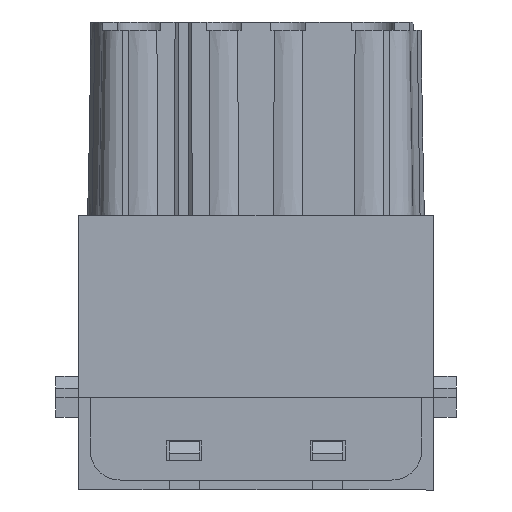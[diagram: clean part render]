
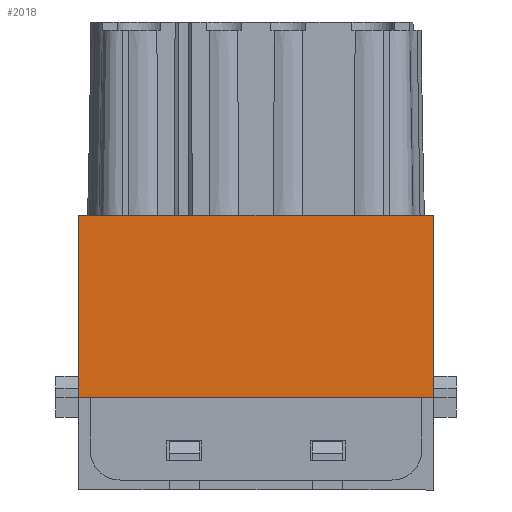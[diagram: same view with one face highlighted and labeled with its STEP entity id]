
A CAD part, left-side view. The second image highlights one B-rep face of the part: STEP entity #2018.
In plain terms, the highlighted planar face has unit normal (-1, 0, 0).
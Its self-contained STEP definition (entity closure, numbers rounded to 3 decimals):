
#2018=ADVANCED_FACE('',(#3239),#2750,.T.);
#2750=PLANE('',#14770);
#3239=FACE_OUTER_BOUND('',#3925,.T.);
#3925=EDGE_LOOP('',(#5235,#5236,#5237,#5238));
#5235=ORIENTED_EDGE('',*,*,#10454,.T.);
#5236=ORIENTED_EDGE('',*,*,#10455,.T.);
#5237=ORIENTED_EDGE('',*,*,#10250,.T.);
#5238=ORIENTED_EDGE('',*,*,#10456,.T.);
#8889=VERTEX_POINT('',#19622);
#8890=VERTEX_POINT('',#19624);
#9081=VERTEX_POINT('',#20122);
#9082=VERTEX_POINT('',#20123);
#10250=EDGE_CURVE('',#8890,#8889,#12106,.T.);
#10454=EDGE_CURVE('',#9081,#9082,#12246,.T.);
#10455=EDGE_CURVE('',#9082,#8890,#12247,.T.);
#10456=EDGE_CURVE('',#8889,#9081,#12248,.T.);
#12106=LINE('',#19623,#13337);
#12246=LINE('',#20121,#13477);
#12247=LINE('',#20124,#13478);
#12248=LINE('',#20125,#13479);
#13337=VECTOR('',#16021,1.);
#13477=VECTOR('',#16255,1.);
#13478=VECTOR('',#16256,1.);
#13479=VECTOR('',#16257,1.);
#14770=AXIS2_PLACEMENT_3D('',#20126,#16258,#16259);
#16021=DIRECTION('',(0.,0.,1.));
#16255=DIRECTION('',(0.,0.,-1.));
#16256=DIRECTION('',(0.,-1.,0.));
#16257=DIRECTION('',(0.,1.,0.));
#16258=DIRECTION('',(-1.,0.,0.));
#16259=DIRECTION('',(0.,1.,0.));
#19622=CARTESIAN_POINT('',(-22.025,-15.15,17.25));
#19623=CARTESIAN_POINT('',(-22.025,-15.15,16.75));
#19624=CARTESIAN_POINT('',(-22.025,-15.15,1.7));
#20121=CARTESIAN_POINT('',(-22.025,15.15,16.85));
#20122=CARTESIAN_POINT('',(-22.025,15.15,17.25));
#20123=CARTESIAN_POINT('',(-22.025,15.15,1.7));
#20124=CARTESIAN_POINT('',(-22.025,-14.15,1.7));
#20125=CARTESIAN_POINT('',(-22.025,-15.15,17.25));
#20126=CARTESIAN_POINT('',(-22.025,-15.25,16.85));
